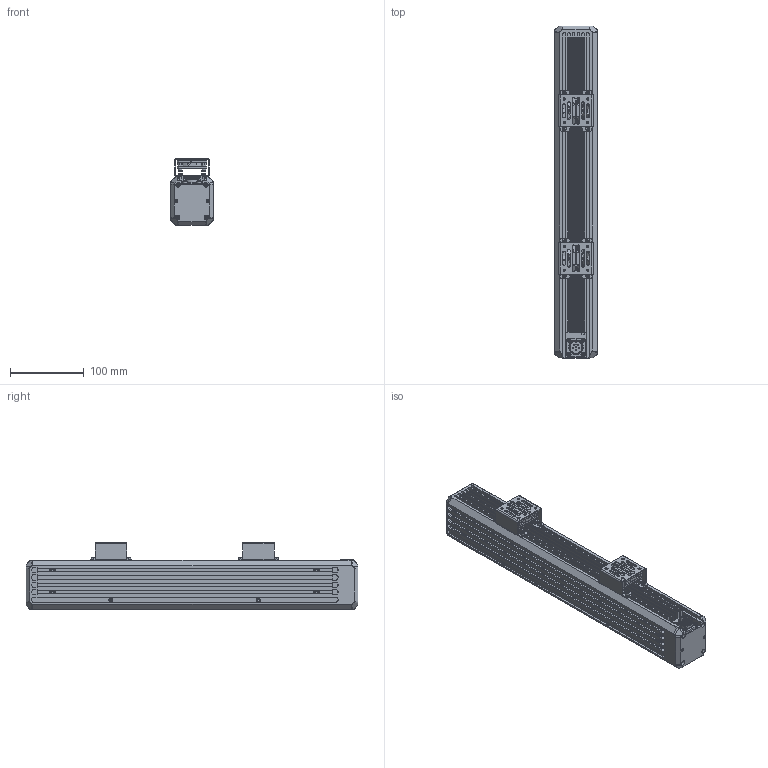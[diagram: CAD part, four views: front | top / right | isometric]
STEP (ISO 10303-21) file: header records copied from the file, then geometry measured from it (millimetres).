
FILE_DESCRIPTION((''),'2;1');
FILE_NAME('PRT0004','2022-09-02T16:29:52',('huguozhe'),(''),'CREO PARAMETRIC BY PTC INC, 2020044','CREO PARAMETRIC BY PTC INC, 2020044','');
FILE_SCHEMA(('AUTOMOTIVE_DESIGN { 1 0 10303 214 1 1 1 1 }'));
Products named in the file (1): PRT0004
Bounding box: 58 x 450 x 90.6 mm (x, y, z)
Volume: 1241201.6 mm3; surface area: 351098.2 mm2
Topology: 1 solids, 153 shells, 3245 faces, 8383 edges, 5204 vertices
Faces by surface type: plane 1574, cylinder 1061, cone 416, torus 156, bspline 38
Entity records: 116398 total; most frequent: CARTESIAN_POINT 23393, DIRECTION 17228, ORIENTED_EDGE 16034, EDGE_CURVE 8199, AXIS2_PLACEMENT_3D 6491, VERTEX_POINT 5204, VECTOR 4246, LINE 4246
